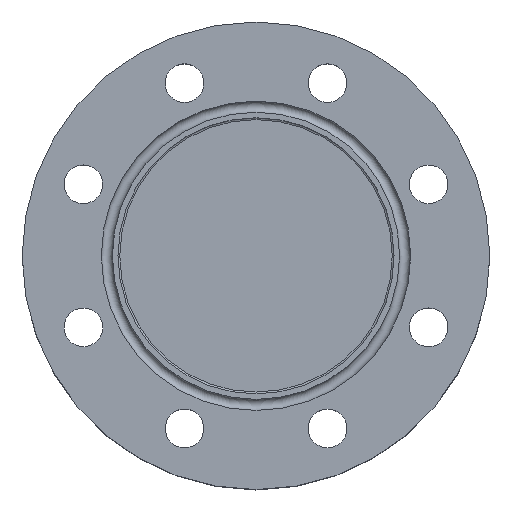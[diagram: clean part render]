
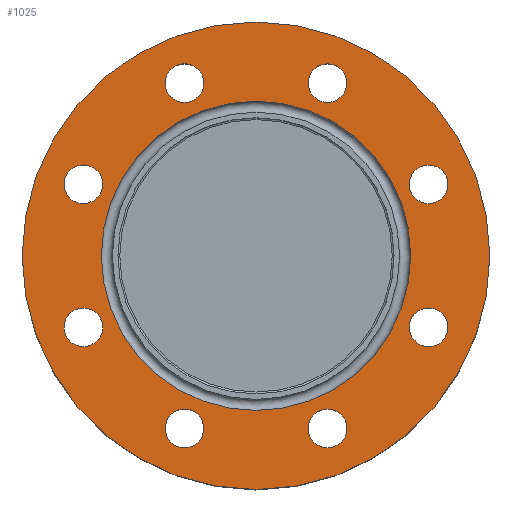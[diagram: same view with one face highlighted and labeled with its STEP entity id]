
A CAD part, top view. The second image highlights one B-rep face of the part: STEP entity #1025.
In plain terms, the highlighted planar face has unit normal (0, 0, 1).
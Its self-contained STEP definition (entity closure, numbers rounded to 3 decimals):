
#48=FACE_BOUND('',#313,.T.);
#49=FACE_BOUND('',#314,.T.);
#50=FACE_BOUND('',#315,.T.);
#51=FACE_BOUND('',#316,.T.);
#52=FACE_BOUND('',#317,.T.);
#53=FACE_BOUND('',#318,.T.);
#54=FACE_BOUND('',#319,.T.);
#55=FACE_BOUND('',#320,.T.);
#56=FACE_BOUND('',#321,.T.);
#230=FACE_OUTER_BOUND('',#312,.T.);
#312=EDGE_LOOP('',(#873));
#313=EDGE_LOOP('',(#874));
#314=EDGE_LOOP('',(#875));
#315=EDGE_LOOP('',(#876));
#316=EDGE_LOOP('',(#877));
#317=EDGE_LOOP('',(#878));
#318=EDGE_LOOP('',(#879));
#319=EDGE_LOOP('',(#880));
#320=EDGE_LOOP('',(#881));
#321=EDGE_LOOP('',(#882));
#426=CIRCLE('',#1149,42.);
#446=CIRCLE('',#1183,63.5);
#447=CIRCLE('',#1184,5.25);
#448=CIRCLE('',#1185,5.25);
#449=CIRCLE('',#1186,5.25);
#450=CIRCLE('',#1187,5.25);
#451=CIRCLE('',#1188,5.25);
#452=CIRCLE('',#1189,5.25);
#453=CIRCLE('',#1190,5.25);
#454=CIRCLE('',#1191,5.25);
#522=VERTEX_POINT('',#1729);
#540=VERTEX_POINT('',#1793);
#541=VERTEX_POINT('',#1795);
#542=VERTEX_POINT('',#1797);
#543=VERTEX_POINT('',#1799);
#544=VERTEX_POINT('',#1801);
#545=VERTEX_POINT('',#1803);
#546=VERTEX_POINT('',#1805);
#547=VERTEX_POINT('',#1807);
#548=VERTEX_POINT('',#1809);
#631=EDGE_CURVE('',#522,#522,#426,.T.);
#662=EDGE_CURVE('',#540,#540,#446,.T.);
#663=EDGE_CURVE('',#541,#541,#447,.T.);
#664=EDGE_CURVE('',#542,#542,#448,.T.);
#665=EDGE_CURVE('',#543,#543,#449,.T.);
#666=EDGE_CURVE('',#544,#544,#450,.T.);
#667=EDGE_CURVE('',#545,#545,#451,.T.);
#668=EDGE_CURVE('',#546,#546,#452,.T.);
#669=EDGE_CURVE('',#547,#547,#453,.T.);
#670=EDGE_CURVE('',#548,#548,#454,.T.);
#873=ORIENTED_EDGE('',*,*,#662,.F.);
#874=ORIENTED_EDGE('',*,*,#663,.T.);
#875=ORIENTED_EDGE('',*,*,#664,.T.);
#876=ORIENTED_EDGE('',*,*,#665,.T.);
#877=ORIENTED_EDGE('',*,*,#666,.T.);
#878=ORIENTED_EDGE('',*,*,#667,.T.);
#879=ORIENTED_EDGE('',*,*,#668,.T.);
#880=ORIENTED_EDGE('',*,*,#669,.T.);
#881=ORIENTED_EDGE('',*,*,#631,.T.);
#882=ORIENTED_EDGE('',*,*,#670,.T.);
#989=PLANE('',#1182);
#1025=ADVANCED_FACE('',(#230,#48,#49,#50,#51,#52,#53,#54,#55,#56),#989,
 .T.);
#1149=AXIS2_PLACEMENT_3D('',#1731,#1397,#1398);
#1182=AXIS2_PLACEMENT_3D('',#1792,#1474,#1475);
#1183=AXIS2_PLACEMENT_3D('',#1794,#1476,#1477);
#1184=AXIS2_PLACEMENT_3D('',#1796,#1478,#1479);
#1185=AXIS2_PLACEMENT_3D('',#1798,#1480,#1481);
#1186=AXIS2_PLACEMENT_3D('',#1800,#1482,#1483);
#1187=AXIS2_PLACEMENT_3D('',#1802,#1484,#1485);
#1188=AXIS2_PLACEMENT_3D('',#1804,#1486,#1487);
#1189=AXIS2_PLACEMENT_3D('',#1806,#1488,#1489);
#1190=AXIS2_PLACEMENT_3D('',#1808,#1490,#1491);
#1191=AXIS2_PLACEMENT_3D('',#1810,#1492,#1493);
#1397=DIRECTION('center_axis',(0.,0.,-1.));
#1398=DIRECTION('ref_axis',(1.,0.,0.));
#1474=DIRECTION('center_axis',(0.,0.,1.));
#1475=DIRECTION('ref_axis',(1.,0.,0.));
#1476=DIRECTION('center_axis',(0.,0.,-1.));
#1477=DIRECTION('ref_axis',(1.,0.,0.));
#1478=DIRECTION('center_axis',(0.,0.,-1.));
#1479=DIRECTION('ref_axis',(0.707,0.707,0.));
#1480=DIRECTION('center_axis',(0.,0.,-1.));
#1481=DIRECTION('ref_axis',(0.,1.,0.));
#1482=DIRECTION('center_axis',(0.,0.,-1.));
#1483=DIRECTION('ref_axis',(-0.707,0.707,0.));
#1484=DIRECTION('center_axis',(0.,0.,-1.));
#1485=DIRECTION('ref_axis',(-0.707,-0.707,0.));
#1486=DIRECTION('center_axis',(0.,0.,-1.));
#1487=DIRECTION('ref_axis',(0.,-1.,0.));
#1488=DIRECTION('center_axis',(0.,0.,-1.));
#1489=DIRECTION('ref_axis',(0.707,-0.707,0.));
#1490=DIRECTION('center_axis',(0.,0.,-1.));
#1491=DIRECTION('ref_axis',(1.,0.,0.));
#1492=DIRECTION('center_axis',(0.,0.,-1.));
#1493=DIRECTION('ref_axis',(-1.,0.,0.));
#1729=CARTESIAN_POINT('',(0.,-42.,0.));
#1731=CARTESIAN_POINT('Origin',(0.,0.,0.));
#1792=CARTESIAN_POINT('Origin',(0.,63.5,0.));
#1793=CARTESIAN_POINT('',(0.,-63.5,0.));
#1794=CARTESIAN_POINT('Origin',(0.,0.,0.));
#1795=CARTESIAN_POINT('',(43.175,15.709,0.));
#1796=CARTESIAN_POINT('Origin',(46.887,19.421,0.));
#1797=CARTESIAN_POINT('',(19.421,41.637,0.));
#1798=CARTESIAN_POINT('Origin',(19.421,46.887,0.));
#1799=CARTESIAN_POINT('',(-15.709,43.175,0.));
#1800=CARTESIAN_POINT('Origin',(-19.421,46.887,0.));
#1801=CARTESIAN_POINT('',(-43.175,-15.709,0.));
#1802=CARTESIAN_POINT('Origin',(-46.887,-19.421,0.));
#1803=CARTESIAN_POINT('',(-19.421,-41.637,0.));
#1804=CARTESIAN_POINT('Origin',(-19.421,-46.887,0.));
#1805=CARTESIAN_POINT('',(15.709,-43.175,0.));
#1806=CARTESIAN_POINT('Origin',(19.421,-46.887,0.));
#1807=CARTESIAN_POINT('',(41.637,-19.421,0.));
#1808=CARTESIAN_POINT('Origin',(46.887,-19.421,0.));
#1809=CARTESIAN_POINT('',(-41.637,19.421,0.));
#1810=CARTESIAN_POINT('Origin',(-46.887,19.421,0.));
